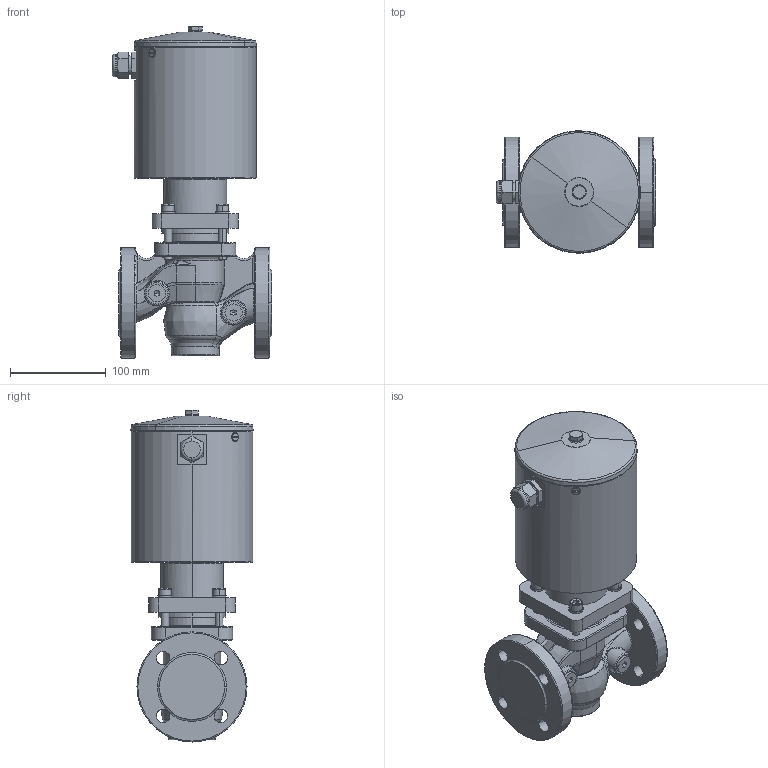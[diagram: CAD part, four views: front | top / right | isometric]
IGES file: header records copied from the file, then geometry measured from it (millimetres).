
Global section: file name: No Iges File Name specified; native system: AutoDesk Inventor R12.0; preprocessor: AutoDesk Inventor Iges Exporter R12.0; date: 20091112.084519; units: millimetre
Bounding box: 166.7 x 127.72 x 346.66 mm (x, y, z)
Volume: 3020935.6 mm3; surface area: 217869.5 mm2
Topology: 1 solids, 1 shells, 558 faces, 1433 edges, 887 vertices
Faces by surface type: bspline 177, plane 148, cylinder 108, torus 55, revolution 38, cone 32
